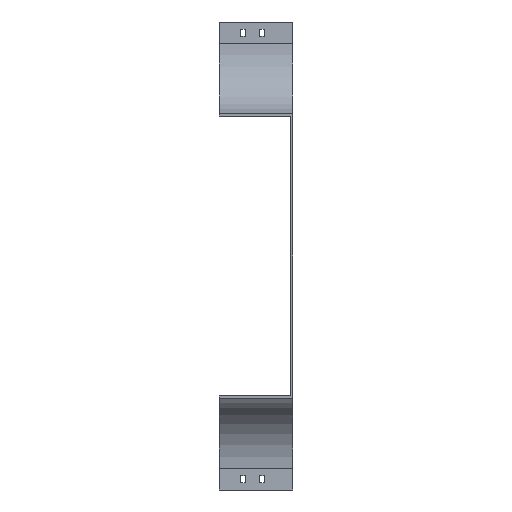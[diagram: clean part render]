
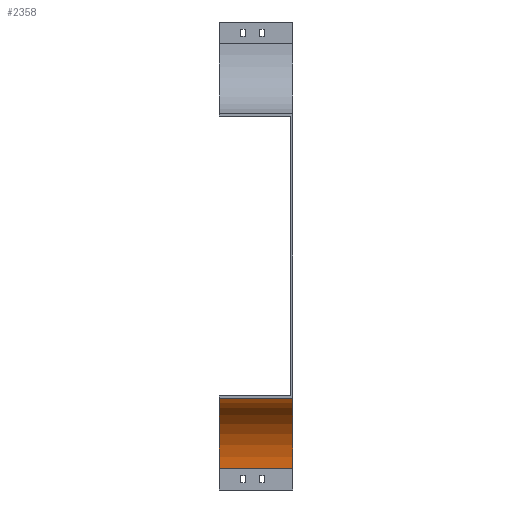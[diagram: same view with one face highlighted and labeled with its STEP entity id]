
A CAD part, left-side view. The second image highlights one B-rep face of the part: STEP entity #2358.
In plain terms, the highlighted cylindrical face has radius 100 mm (diameter 200 mm), a partial arc.
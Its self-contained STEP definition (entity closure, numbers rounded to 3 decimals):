
#10 = EDGE_CURVE ( 'NONE', #393, #3129, #3030, .T. ) ;
#175 = CARTESIAN_POINT ( 'NONE',  ( -604., 0., -504. ) ) ;
#198 = CARTESIAN_POINT ( 'NONE',  ( -504., 104., -604. ) ) ;
#328 = VECTOR ( 'NONE', #1422, 1000. ) ;
#393 = VERTEX_POINT ( 'NONE', #1588 ) ;
#529 = CARTESIAN_POINT ( 'NONE',  ( -604., 104., -604. ) ) ;
#676 = DIRECTION ( 'NONE',  ( 0., -1., 0. ) ) ;
#732 = ORIENTED_EDGE ( 'NONE', *, *, #10, .F. ) ;
#800 = FACE_OUTER_BOUND ( 'NONE', #882, .T. ) ;
#830 = ORIENTED_EDGE ( 'NONE', *, *, #3680, .T. ) ;
#851 = DIRECTION ( 'NONE',  ( 0., 0., -1. ) ) ;
#872 = VERTEX_POINT ( 'NONE', #1930 ) ;
#882 = EDGE_LOOP ( 'NONE', ( #3006, #732, #922, #830 ) ) ;
#902 = CARTESIAN_POINT ( 'NONE',  ( -504., 104., -604. ) ) ;
#922 = ORIENTED_EDGE ( 'NONE', *, *, #3814, .F. ) ;
#1065 = CIRCLE ( 'NONE', #2495, 100. ) ;
#1422 = DIRECTION ( 'NONE',  ( 0., -1., 0. ) ) ;
#1588 = CARTESIAN_POINT ( 'NONE',  ( -604., 104., -504. ) ) ;
#1885 = VECTOR ( 'NONE', #3391, 1000. ) ;
#1930 = CARTESIAN_POINT ( 'NONE',  ( -504., 0., -604. ) ) ;
#1947 = DIRECTION ( 'NONE',  ( 0., -1., 0. ) ) ;
#1949 = AXIS2_PLACEMENT_3D ( 'NONE', #3378, #676, #2169 ) ;
#1986 = CYLINDRICAL_SURFACE ( 'NONE', #2659, 100. ) ;
#1988 = LINE ( 'NONE', #198, #328 ) ;
#2054 = DIRECTION ( 'NONE',  ( 0., -1., 0. ) ) ;
#2129 = VERTEX_POINT ( 'NONE', #902 ) ;
#2169 = DIRECTION ( 'NONE',  ( 0., 0., -1. ) ) ;
#2246 = CARTESIAN_POINT ( 'NONE',  ( -604., 104., -504. ) ) ;
#2358 = ADVANCED_FACE ( 'NONE', ( #800 ), #1986, .F. ) ;
#2495 = AXIS2_PLACEMENT_3D ( 'NONE', #2924, #2054, #851 ) ;
#2609 = EDGE_CURVE ( 'NONE', #872, #3129, #2653, .T. ) ;
#2619 = DIRECTION ( 'NONE',  ( 0., 0., -1. ) ) ;
#2653 = CIRCLE ( 'NONE', #1949, 100. ) ;
#2659 = AXIS2_PLACEMENT_3D ( 'NONE', #529, #1947, #2619 ) ;
#2924 = CARTESIAN_POINT ( 'NONE',  ( -604., 104., -604. ) ) ;
#3006 = ORIENTED_EDGE ( 'NONE', *, *, #2609, .T. ) ;
#3030 = LINE ( 'NONE', #2246, #1885 ) ;
#3129 = VERTEX_POINT ( 'NONE', #175 ) ;
#3378 = CARTESIAN_POINT ( 'NONE',  ( -604., 0., -604. ) ) ;
#3391 = DIRECTION ( 'NONE',  ( 0., -1., 0. ) ) ;
#3680 = EDGE_CURVE ( 'NONE', #2129, #872, #1988, .T. ) ;
#3814 = EDGE_CURVE ( 'NONE', #2129, #393, #1065, .T. ) ;
